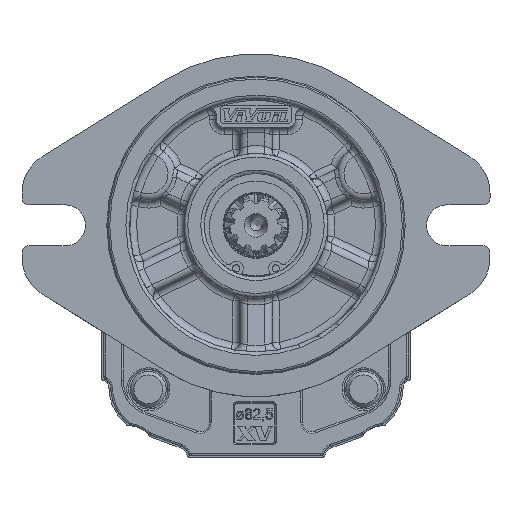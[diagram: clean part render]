
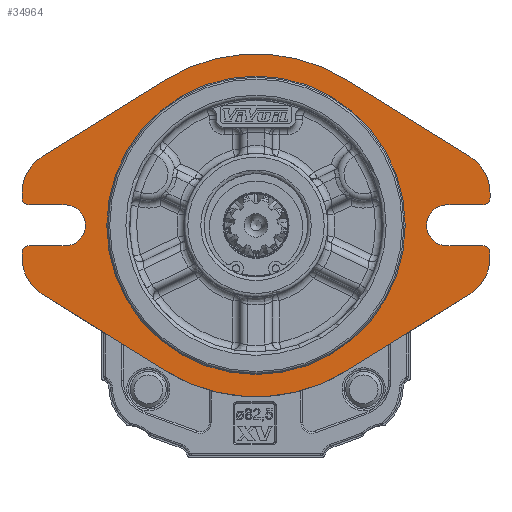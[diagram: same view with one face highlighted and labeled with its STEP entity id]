
A CAD part, front view. The second image highlights one B-rep face of the part: STEP entity #34964.
In plain terms, the highlighted planar face has unit normal (0, -1, 0).
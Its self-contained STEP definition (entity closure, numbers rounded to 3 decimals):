
#1558=LINE('',#51558,#3468);
#1562=LINE('',#51570,#3472);
#1563=LINE('',#51572,#3473);
#1570=LINE('',#51591,#3480);
#1571=LINE('',#51593,#3481);
#1578=LINE('',#51622,#3488);
#1579=LINE('',#51627,#3489);
#1580=LINE('',#51631,#3490);
#1581=LINE('',#51634,#3491);
#1582=LINE('',#51638,#3492);
#1583=LINE('',#51642,#3493);
#1584=LINE('',#51646,#3494);
#3468=VECTOR('',#41054,1000.);
#3472=VECTOR('',#41066,1000.);
#3473=VECTOR('',#41069,1000.);
#3480=VECTOR('',#41084,1000.);
#3481=VECTOR('',#41087,1000.);
#3488=VECTOR('',#41116,1000.);
#3489=VECTOR('',#41119,1000.);
#3490=VECTOR('',#41122,1000.);
#3491=VECTOR('',#41127,1000.);
#3492=VECTOR('',#41130,1000.);
#3493=VECTOR('',#41133,1000.);
#3494=VECTOR('',#41136,1000.);
#4926=PLANE('',#36880);
#8344=ORIENTED_EDGE('',*,*,#14807,.T.);
#8345=ORIENTED_EDGE('',*,*,#14808,.F.);
#8346=ORIENTED_EDGE('',*,*,#14809,.T.);
#8347=ORIENTED_EDGE('',*,*,#14810,.F.);
#8348=ORIENTED_EDGE('',*,*,#14811,.F.);
#8349=ORIENTED_EDGE('',*,*,#14812,.F.);
#8350=ORIENTED_EDGE('',*,*,#14728,.F.);
#8351=ORIENTED_EDGE('',*,*,#14777,.F.);
#8352=ORIENTED_EDGE('',*,*,#14780,.F.);
#8353=ORIENTED_EDGE('',*,*,#14783,.F.);
#8354=ORIENTED_EDGE('',*,*,#14813,.T.);
#8355=ORIENTED_EDGE('',*,*,#14784,.F.);
#8356=ORIENTED_EDGE('',*,*,#14790,.F.);
#8357=ORIENTED_EDGE('',*,*,#14793,.F.);
#8358=ORIENTED_EDGE('',*,*,#14814,.T.);
#8359=ORIENTED_EDGE('',*,*,#14794,.F.);
#8360=ORIENTED_EDGE('',*,*,#14806,.F.);
#8361=ORIENTED_EDGE('',*,*,#14815,.F.);
#8362=ORIENTED_EDGE('',*,*,#14816,.F.);
#8363=ORIENTED_EDGE('',*,*,#14817,.F.);
#8364=ORIENTED_EDGE('',*,*,#14818,.F.);
#8365=ORIENTED_EDGE('',*,*,#14819,.F.);
#8366=ORIENTED_EDGE('',*,*,#14820,.T.);
#8367=ORIENTED_EDGE('',*,*,#14821,.F.);
#8368=ORIENTED_EDGE('',*,*,#14822,.F.);
#14728=EDGE_CURVE('',#18106,#18107,#20067,.T.);
#14777=EDGE_CURVE('',#18149,#18106,#1558,.T.);
#14780=EDGE_CURVE('',#18151,#18149,#20095,.T.);
#14783=EDGE_CURVE('',#18153,#18151,#1562,.T.);
#14784=EDGE_CURVE('',#18154,#18155,#1563,.T.);
#14790=EDGE_CURVE('',#18159,#18154,#20097,.T.);
#14793=EDGE_CURVE('',#18161,#18159,#1570,.T.);
#14794=EDGE_CURVE('',#18162,#18163,#1571,.T.);
#14806=EDGE_CURVE('',#18171,#18162,#20103,.T.);
#14807=EDGE_CURVE('',#18172,#18172,#20104,.T.);
#14808=EDGE_CURVE('',#18173,#18174,#1578,.T.);
#14809=EDGE_CURVE('',#18173,#18175,#20105,.F.);
#14810=EDGE_CURVE('',#18176,#18175,#1579,.T.);
#14811=EDGE_CURVE('',#18177,#18176,#20106,.T.);
#14812=EDGE_CURVE('',#18107,#18177,#1580,.T.);
#14813=EDGE_CURVE('',#18153,#18155,#20107,.F.);
#14814=EDGE_CURVE('',#18161,#18163,#20108,.F.);
#14815=EDGE_CURVE('',#18178,#18171,#1581,.T.);
#14816=EDGE_CURVE('',#18179,#18178,#20109,.T.);
#14817=EDGE_CURVE('',#18180,#18179,#1582,.T.);
#14818=EDGE_CURVE('',#18181,#18180,#20110,.T.);
#14819=EDGE_CURVE('',#18182,#18181,#1583,.T.);
#14820=EDGE_CURVE('',#18182,#18183,#20111,.F.);
#14821=EDGE_CURVE('',#18184,#18183,#1584,.T.);
#14822=EDGE_CURVE('',#18174,#18184,#20112,.T.);
#18106=VERTEX_POINT('',#51458);
#18107=VERTEX_POINT('',#51460);
#18149=VERTEX_POINT('',#51557);
#18151=VERTEX_POINT('',#51563);
#18153=VERTEX_POINT('',#51569);
#18154=VERTEX_POINT('',#51573);
#18155=VERTEX_POINT('',#51574);
#18159=VERTEX_POINT('',#51584);
#18161=VERTEX_POINT('',#51590);
#18162=VERTEX_POINT('',#51594);
#18163=VERTEX_POINT('',#51595);
#18171=VERTEX_POINT('',#51617);
#18172=VERTEX_POINT('',#51621);
#18173=VERTEX_POINT('',#51623);
#18174=VERTEX_POINT('',#51624);
#18175=VERTEX_POINT('',#51626);
#18176=VERTEX_POINT('',#51628);
#18177=VERTEX_POINT('',#51630);
#18178=VERTEX_POINT('',#51635);
#18179=VERTEX_POINT('',#51637);
#18180=VERTEX_POINT('',#51639);
#18181=VERTEX_POINT('',#51641);
#18182=VERTEX_POINT('',#51643);
#18183=VERTEX_POINT('',#51645);
#18184=VERTEX_POINT('',#51647);
#20067=CIRCLE('',#36829,47.75);
#20095=CIRCLE('',#36863,12.);
#20097=CIRCLE('',#36868,5.7);
#20103=CIRCLE('',#36879,12.);
#20104=CIRCLE('',#36881,40.982);
#20105=CIRCLE('',#36882,2.);
#20106=CIRCLE('',#36883,12.);
#20107=CIRCLE('',#36884,2.);
#20108=CIRCLE('',#36885,2.);
#20109=CIRCLE('',#36886,47.75);
#20110=CIRCLE('',#36887,12.);
#20111=CIRCLE('',#36888,2.);
#20112=CIRCLE('',#36889,5.7);
#21556=EDGE_LOOP('',(#8344));
#21557=EDGE_LOOP('',(#8345,#8346,#8347,#8348,#8349,#8350,#8351,#8352,#8353,
#8354,#8355,#8356,#8357,#8358,#8359,#8360,#8361,#8362,#8363,#8364,#8365,
#8366,#8367,#8368));
#23252=FACE_BOUND('',#21556,.T.);
#23253=FACE_BOUND('',#21557,.T.);
#34964=ADVANCED_FACE('',(#23252,#23253),#4926,.F.);
#36829=AXIS2_PLACEMENT_3D('',#51459,#40970,#40971);
#36863=AXIS2_PLACEMENT_3D('',#51564,#41060,#41061);
#36868=AXIS2_PLACEMENT_3D('',#51585,#41078,#41079);
#36879=AXIS2_PLACEMENT_3D('',#51618,#41110,#41111);
#36880=AXIS2_PLACEMENT_3D('',#51619,#41112,#41113);
#36881=AXIS2_PLACEMENT_3D('',#51620,#41114,#41115);
#36882=AXIS2_PLACEMENT_3D('',#51625,#41117,#41118);
#36883=AXIS2_PLACEMENT_3D('',#51629,#41120,#41121);
#36884=AXIS2_PLACEMENT_3D('',#51632,#41123,#41124);
#36885=AXIS2_PLACEMENT_3D('',#51633,#41125,#41126);
#36886=AXIS2_PLACEMENT_3D('',#51636,#41128,#41129);
#36887=AXIS2_PLACEMENT_3D('',#51640,#41131,#41132);
#36888=AXIS2_PLACEMENT_3D('',#51644,#41134,#41135);
#36889=AXIS2_PLACEMENT_3D('',#51648,#41137,#41138);
#40970=DIRECTION('',(0.,1.,0.));
#40971=DIRECTION('',(-1.,0.,0.));
#41054=DIRECTION('',(-0.849,0.,-0.528));
#41060=DIRECTION('',(0.,1.,0.));
#41061=DIRECTION('',(-1.,0.,0.));
#41066=DIRECTION('',(0.,0.,-1.));
#41069=DIRECTION('',(1.,0.,0.));
#41078=DIRECTION('',(0.,-1.,0.));
#41079=DIRECTION('',(1.,0.,0.));
#41084=DIRECTION('',(-1.,0.,0.));
#41087=DIRECTION('',(0.,0.,-1.));
#41110=DIRECTION('',(0.,1.,0.));
#41111=DIRECTION('',(-1.,0.,0.));
#41112=DIRECTION('',(0.,1.,0.));
#41113=DIRECTION('',(0.,0.,-1.));
#41114=DIRECTION('',(0.,1.,0.));
#41115=DIRECTION('',(-1.,0.,0.));
#41116=DIRECTION('',(1.,0.,0.));
#41117=DIRECTION('',(0.,1.,0.));
#41118=DIRECTION('',(0.,0.,-1.));
#41119=DIRECTION('',(0.,0.,1.));
#41120=DIRECTION('',(0.,1.,0.));
#41121=DIRECTION('',(1.,0.,0.));
#41122=DIRECTION('',(-0.849,0.,0.528));
#41123=DIRECTION('',(0.,1.,0.));
#41124=DIRECTION('',(0.,0.,-1.));
#41125=DIRECTION('',(0.,1.,0.));
#41126=DIRECTION('',(0.,0.,-1.));
#41127=DIRECTION('',(0.849,0.,-0.528));
#41128=DIRECTION('',(0.,1.,0.));
#41129=DIRECTION('',(-1.,0.,0.));
#41130=DIRECTION('',(0.849,0.,0.528));
#41131=DIRECTION('',(0.,1.,0.));
#41132=DIRECTION('',(1.,0.,0.));
#41133=DIRECTION('',(0.,0.,1.));
#41134=DIRECTION('',(0.,1.,0.));
#41135=DIRECTION('',(0.,0.,-1.));
#41136=DIRECTION('',(-1.,0.,0.));
#41137=DIRECTION('',(0.,-1.,0.));
#41138=DIRECTION('',(-1.,0.,0.));
#51458=CARTESIAN_POINT('',(25.235,-19.,-24.837));
#51459=CARTESIAN_POINT('',(0.,-19.,15.7));
#51460=CARTESIAN_POINT('',(-25.235,-19.,-24.837));
#51557=CARTESIAN_POINT('',(59.532,-19.,-3.487));
#51558=CARTESIAN_POINT('',(59.532,-19.,-3.487));
#51563=CARTESIAN_POINT('',(65.19,-19.,6.7));
#51564=CARTESIAN_POINT('',(53.19,-19.,6.7));
#51569=CARTESIAN_POINT('',(65.19,-19.,8.));
#51570=CARTESIAN_POINT('',(65.19,-19.,6.7));
#51572=CARTESIAN_POINT('',(53.19,-19.,10.));
#51573=CARTESIAN_POINT('',(53.19,-19.,10.));
#51574=CARTESIAN_POINT('',(63.19,-19.,10.));
#51584=CARTESIAN_POINT('',(53.19,-19.,21.4));
#51585=CARTESIAN_POINT('',(53.19,-19.,15.7));
#51590=CARTESIAN_POINT('',(63.19,-19.,21.4));
#51591=CARTESIAN_POINT('',(53.19,-19.,21.4));
#51593=CARTESIAN_POINT('',(65.19,-19.,24.7));
#51594=CARTESIAN_POINT('',(65.19,-19.,24.7));
#51595=CARTESIAN_POINT('',(65.19,-19.,23.4));
#51617=CARTESIAN_POINT('',(59.532,-19.,34.887));
#51618=CARTESIAN_POINT('',(53.19,-19.,24.7));
#51619=CARTESIAN_POINT('',(0.,-19.,15.7));
#51620=CARTESIAN_POINT('',(0.,-19.,15.7));
#51621=CARTESIAN_POINT('',(-40.982,-19.,15.7));
#51622=CARTESIAN_POINT('',(-53.19,-19.,10.));
#51623=CARTESIAN_POINT('',(-63.19,-19.,10.));
#51624=CARTESIAN_POINT('',(-53.19,-19.,10.));
#51625=CARTESIAN_POINT('',(-63.19,-19.,8.));
#51626=CARTESIAN_POINT('',(-65.19,-19.,8.));
#51627=CARTESIAN_POINT('',(-65.19,-19.,6.7));
#51628=CARTESIAN_POINT('',(-65.19,-19.,6.7));
#51629=CARTESIAN_POINT('',(-53.19,-19.,6.7));
#51630=CARTESIAN_POINT('',(-59.532,-19.,-3.487));
#51631=CARTESIAN_POINT('',(-59.532,-19.,-3.487));
#51632=CARTESIAN_POINT('',(63.19,-19.,8.));
#51633=CARTESIAN_POINT('',(63.19,-19.,23.4));
#51634=CARTESIAN_POINT('',(25.235,-19.,56.237));
#51635=CARTESIAN_POINT('',(25.235,-19.,56.237));
#51636=CARTESIAN_POINT('',(0.,-19.,15.7));
#51637=CARTESIAN_POINT('',(-25.235,-19.,56.237));
#51638=CARTESIAN_POINT('',(-25.235,-19.,56.237));
#51639=CARTESIAN_POINT('',(-59.532,-19.,34.887));
#51640=CARTESIAN_POINT('',(-53.19,-19.,24.7));
#51641=CARTESIAN_POINT('',(-65.19,-19.,24.7));
#51642=CARTESIAN_POINT('',(-65.19,-19.,24.7));
#51643=CARTESIAN_POINT('',(-65.19,-19.,23.4));
#51644=CARTESIAN_POINT('',(-63.19,-19.,23.4));
#51645=CARTESIAN_POINT('',(-63.19,-19.,21.4));
#51646=CARTESIAN_POINT('',(-53.19,-19.,21.4));
#51647=CARTESIAN_POINT('',(-53.19,-19.,21.4));
#51648=CARTESIAN_POINT('',(-53.19,-19.,15.7));
